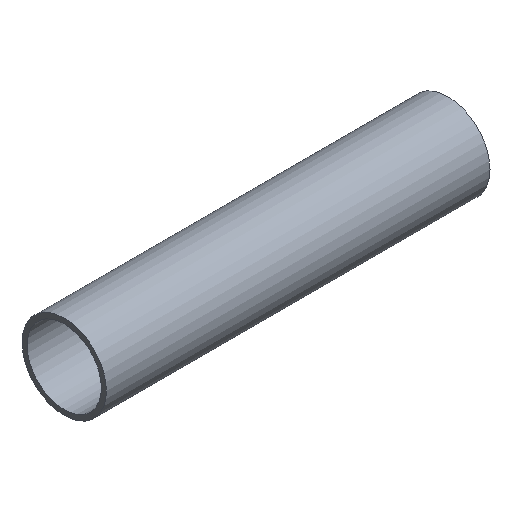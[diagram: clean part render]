
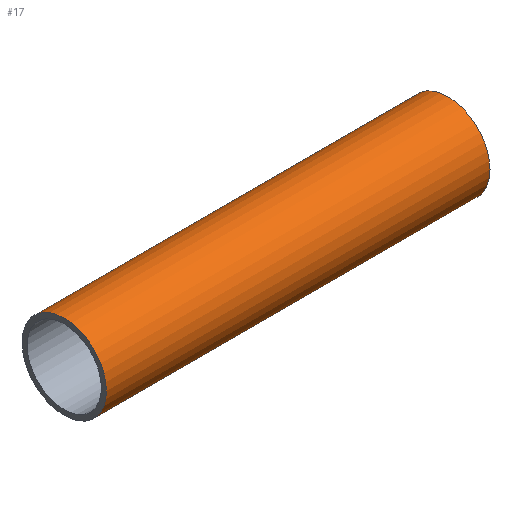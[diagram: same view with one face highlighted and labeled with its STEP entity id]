
A CAD part, isometric view. The second image highlights one B-rep face of the part: STEP entity #17.
In plain terms, the highlighted cylindrical face has radius 55 mm (diameter 110 mm), a full revolution.
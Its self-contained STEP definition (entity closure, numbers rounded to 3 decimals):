
#17 = ADVANCED_FACE('',(#18),#32,.T.);
#18 = FACE_BOUND('',#19,.F.);
#19 = EDGE_LOOP('',(#20,#50,#77,#78));
#20 = ORIENTED_EDGE('',*,*,#21,.T.);
#21 = EDGE_CURVE('',#22,#24,#26,.T.);
#22 = VERTEX_POINT('',#23);
#23 = CARTESIAN_POINT('',(90.,55.,0.));
#24 = VERTEX_POINT('',#25);
#25 = CARTESIAN_POINT('',(590.,55.,0.));
#26 = SEAM_CURVE('',#27,(#31,#43),.PCURVE_S1.);
#27 = LINE('',#28,#29);
#28 = CARTESIAN_POINT('',(90.,55.,0.));
#29 = VECTOR('',#30,1.);
#30 = DIRECTION('',(1.,0.,0.));
#31 = PCURVE('',#32,#37);
#32 = CYLINDRICAL_SURFACE('',#33,55.);
#33 = AXIS2_PLACEMENT_3D('',#34,#35,#36);
#34 = CARTESIAN_POINT('',(90.,0.,0.));
#35 = DIRECTION('',(-1.,-0.,-0.));
#36 = DIRECTION('',(0.,1.,0.));
#37 = DEFINITIONAL_REPRESENTATION('',(#38),#42);
#38 = LINE('',#39,#40);
#39 = CARTESIAN_POINT('',(-0.,0.));
#40 = VECTOR('',#41,1.);
#41 = DIRECTION('',(-0.,-1.));
#42 = ( GEOMETRIC_REPRESENTATION_CONTEXT(2) 
PARAMETRIC_REPRESENTATION_CONTEXT() REPRESENTATION_CONTEXT('2D SPACE',''
  ) );
#43 = PCURVE('',#32,#44);
#44 = DEFINITIONAL_REPRESENTATION('',(#45),#49);
#45 = LINE('',#46,#47);
#46 = CARTESIAN_POINT('',(-6.283,0.));
#47 = VECTOR('',#48,1.);
#48 = DIRECTION('',(-0.,-1.));
#49 = ( GEOMETRIC_REPRESENTATION_CONTEXT(2) 
PARAMETRIC_REPRESENTATION_CONTEXT() REPRESENTATION_CONTEXT('2D SPACE',''
  ) );
#50 = ORIENTED_EDGE('',*,*,#51,.T.);
#51 = EDGE_CURVE('',#24,#24,#52,.T.);
#52 = SURFACE_CURVE('',#53,(#58,#65),.PCURVE_S1.);
#53 = CIRCLE('',#54,55.);
#54 = AXIS2_PLACEMENT_3D('',#55,#56,#57);
#55 = CARTESIAN_POINT('',(590.,0.,0.));
#56 = DIRECTION('',(1.,0.,0.));
#57 = DIRECTION('',(0.,1.,0.));
#58 = PCURVE('',#32,#59);
#59 = DEFINITIONAL_REPRESENTATION('',(#60),#64);
#60 = LINE('',#61,#62);
#61 = CARTESIAN_POINT('',(-0.,-500.));
#62 = VECTOR('',#63,1.);
#63 = DIRECTION('',(-1.,0.));
#64 = ( GEOMETRIC_REPRESENTATION_CONTEXT(2) 
PARAMETRIC_REPRESENTATION_CONTEXT() REPRESENTATION_CONTEXT('2D SPACE',''
  ) );
#65 = PCURVE('',#66,#71);
#66 = PLANE('',#67);
#67 = AXIS2_PLACEMENT_3D('',#68,#69,#70);
#68 = CARTESIAN_POINT('',(590.,0.,0.));
#69 = DIRECTION('',(1.,0.,0.));
#70 = DIRECTION('',(-0.,0.,1.));
#71 = DEFINITIONAL_REPRESENTATION('',(#72),#76);
#72 = CIRCLE('',#73,55.);
#73 = AXIS2_PLACEMENT_2D('',#74,#75);
#74 = CARTESIAN_POINT('',(0.,0.));
#75 = DIRECTION('',(0.,-1.));
#76 = ( GEOMETRIC_REPRESENTATION_CONTEXT(2) 
PARAMETRIC_REPRESENTATION_CONTEXT() REPRESENTATION_CONTEXT('2D SPACE',''
  ) );
#77 = ORIENTED_EDGE('',*,*,#21,.F.);
#78 = ORIENTED_EDGE('',*,*,#79,.F.);
#79 = EDGE_CURVE('',#22,#22,#80,.T.);
#80 = SURFACE_CURVE('',#81,(#86,#93),.PCURVE_S1.);
#81 = CIRCLE('',#82,55.);
#82 = AXIS2_PLACEMENT_3D('',#83,#84,#85);
#83 = CARTESIAN_POINT('',(90.,0.,0.));
#84 = DIRECTION('',(1.,0.,0.));
#85 = DIRECTION('',(0.,1.,0.));
#86 = PCURVE('',#32,#87);
#87 = DEFINITIONAL_REPRESENTATION('',(#88),#92);
#88 = LINE('',#89,#90);
#89 = CARTESIAN_POINT('',(-0.,0.));
#90 = VECTOR('',#91,1.);
#91 = DIRECTION('',(-1.,0.));
#92 = ( GEOMETRIC_REPRESENTATION_CONTEXT(2) 
PARAMETRIC_REPRESENTATION_CONTEXT() REPRESENTATION_CONTEXT('2D SPACE',''
  ) );
#93 = PCURVE('',#94,#99);
#94 = PLANE('',#95);
#95 = AXIS2_PLACEMENT_3D('',#96,#97,#98);
#96 = CARTESIAN_POINT('',(90.,0.,0.));
#97 = DIRECTION('',(1.,0.,0.));
#98 = DIRECTION('',(-0.,0.,1.));
#99 = DEFINITIONAL_REPRESENTATION('',(#100),#104);
#100 = CIRCLE('',#101,55.);
#101 = AXIS2_PLACEMENT_2D('',#102,#103);
#102 = CARTESIAN_POINT('',(0.,0.));
#103 = DIRECTION('',(0.,-1.));
#104 = ( GEOMETRIC_REPRESENTATION_CONTEXT(2) 
PARAMETRIC_REPRESENTATION_CONTEXT() REPRESENTATION_CONTEXT('2D SPACE',''
  ) );
